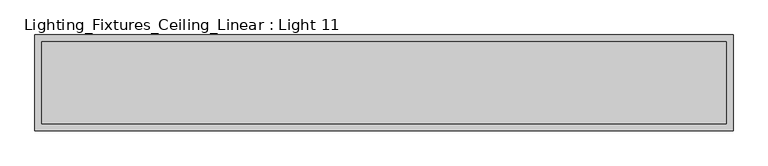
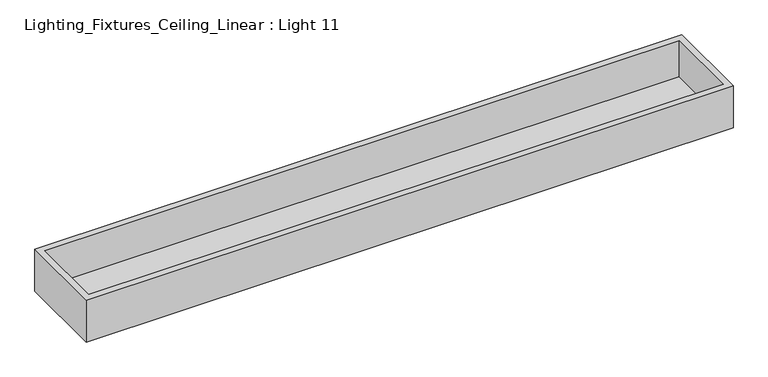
"""IFC4 building model written with IfcOpenShell, lengths in millimetres: light fixture geometry, Lighting_Fixtures_Ceiling_Linear : Light 11."""

from ifc_helpers import new_model, si_unit, frame, origin, place, context, project, spatial, polyline, outline, extrude, source, transform, mapped, element, save


def lighting_fixtures_ceiling_linear_light_11_ba4d53ce(model_context):
    return source(origin(), model_context, "Body", "SweptSolid", [
        extrude(outline(polyline([(647.7, 88.9), (647.7, -88.9), (-647.7, -88.9), (-647.7, 88.9), (647.7, 88.9)]), holes=[polyline([(635.0, 76.2), (-635.0, 76.2), (-635.0, -76.2), (635.0, -76.2), (635.0, 76.2)])]), frame((0.0, 0.0, 2349.5), z_axis=(0.0, 0.0, 1.0), x_axis=(1.0, 0.0, 0.0)), (0.0, 0.0, 1.0), 88.9),
        extrude(outline(polyline([(635.0, 76.2), (635.0, -76.2), (-635.0, -76.2), (-635.0, 76.2), (635.0, 76.2)])), frame((0.0, 0.0, 2355.85), z_axis=(0.0, 0.0, 1.0), x_axis=(1.0, 0.0, 0.0)), (0.0, 0.0, 1.0), 6.35),
    ])


if __name__ == "__main__":
    model = new_model("IFC4")
    model_context = context("Model", 3, world=origin())
    ifc_project = project(units=[si_unit("LENGTHUNIT", "METRE", prefix="MILLI")], contexts=[model_context])
    site = spatial("IfcSite", under=ifc_project)
    building = spatial("IfcBuilding", under=site)
    placement = place(None, origin())
    lighting_fixtures_ceiling_linear_light_11_shape = lighting_fixtures_ceiling_linear_light_11_ba4d53ce(model_context)
    element("IfcLightFixture", 1, ObjectType="Lighting_Fixtures_Ceiling_Linear : Light 11", at=placement, inside=building, context=model_context, shape_type="MappedRepresentation", body=[
        mapped(lighting_fixtures_ceiling_linear_light_11_shape, transform((0.0, 0.0, 0.0), x_axis=(1.0, 0.0, 0.0), y_axis=(0.0, 1.0, 0.0), z_axis=(0.0, 0.0, 1.0))),
    ])
    save(model, "model.ifc")
